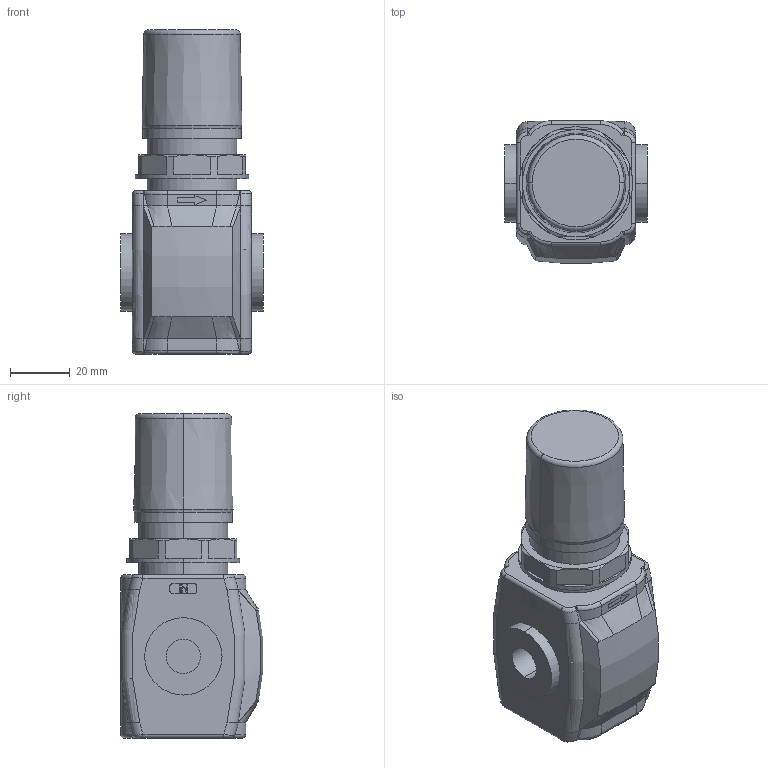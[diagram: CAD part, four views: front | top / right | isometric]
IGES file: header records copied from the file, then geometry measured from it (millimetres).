
Global section: file name: No Iges File Name specified; native system: Autodesk Inventor 2010; preprocessor: AutoDesk Inventor Iges Exporter R2010; author: valotma1; date: 20100823.141823; units: millimetre
Bounding box: 48 x 47.82 x 109 mm (x, y, z)
Volume: 142599.6 mm3; surface area: 24959.8 mm2
Topology: 2 solids, 3 shells, 325 faces, 772 edges, 488 vertices
Faces by surface type: plane 130, bspline 78, cylinder 54, revolution 31, torus 22, cone 10
